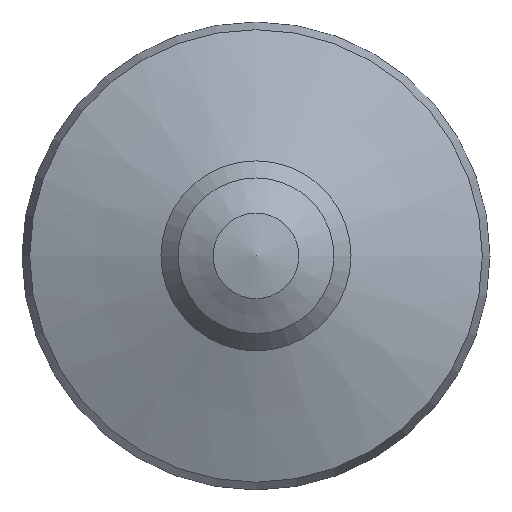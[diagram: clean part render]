
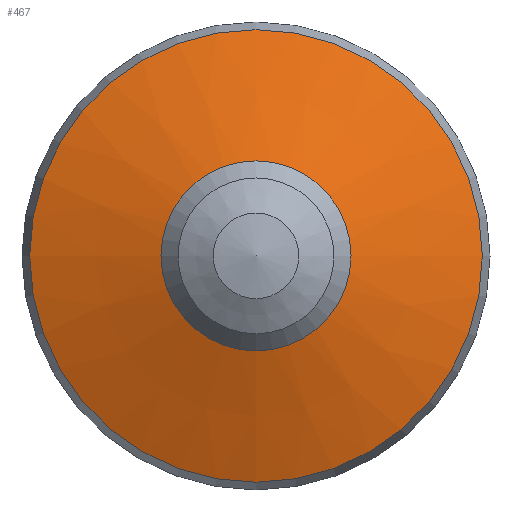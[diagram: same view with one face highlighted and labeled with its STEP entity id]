
A CAD part, top view. The second image highlights one B-rep face of the part: STEP entity #467.
In plain terms, the highlighted conical face has half-angle 70 degrees and reference radius 0.246 mm.
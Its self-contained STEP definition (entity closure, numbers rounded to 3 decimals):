
#467 = ADVANCED_FACE('',(#468),#481,.T.);
#468 = FACE_BOUND('',#469,.F.);
#469 = EDGE_LOOP('',(#470,#504,#527,#554));
#470 = ORIENTED_EDGE('',*,*,#471,.T.);
#471 = EDGE_CURVE('',#472,#472,#474,.T.);
#472 = VERTEX_POINT('',#473);
#473 = CARTESIAN_POINT('',(0.246,0.,0.33));
#474 = SURFACE_CURVE('',#475,(#480,#492),.PCURVE_S1.);
#475 = CIRCLE('',#476,0.246);
#476 = AXIS2_PLACEMENT_3D('',#477,#478,#479);
#477 = CARTESIAN_POINT('',(0.,0.,0.33));
#478 = DIRECTION('',(0.,0.,1.));
#479 = DIRECTION('',(1.,0.,-0.));
#480 = PCURVE('',#481,#486);
#481 = CONICAL_SURFACE('',#482,0.246,1.222);
#482 = AXIS2_PLACEMENT_3D('',#483,#484,#485);
#483 = CARTESIAN_POINT('',(0.,0.,0.33));
#484 = DIRECTION('',(-0.,-0.,-1.));
#485 = DIRECTION('',(1.,0.,0.));
#486 = DEFINITIONAL_REPRESENTATION('',(#487),#491);
#487 = LINE('',#488,#489);
#488 = CARTESIAN_POINT('',(-0.,0.));
#489 = VECTOR('',#490,1.);
#490 = DIRECTION('',(-1.,0.));
#491 = ( GEOMETRIC_REPRESENTATION_CONTEXT(2) 
PARAMETRIC_REPRESENTATION_CONTEXT() REPRESENTATION_CONTEXT('2D SPACE',''
  ) );
#492 = PCURVE('',#493,#498);
#493 = CYLINDRICAL_SURFACE('',#494,0.246);
#494 = AXIS2_PLACEMENT_3D('',#495,#496,#497);
#495 = CARTESIAN_POINT('',(0.,0.,0.305));
#496 = DIRECTION('',(0.,0.,1.));
#497 = DIRECTION('',(1.,0.,-0.));
#498 = DEFINITIONAL_REPRESENTATION('',(#499),#503);
#499 = LINE('',#500,#501);
#500 = CARTESIAN_POINT('',(0.,0.025));
#501 = VECTOR('',#502,1.);
#502 = DIRECTION('',(1.,0.));
#503 = ( GEOMETRIC_REPRESENTATION_CONTEXT(2) 
PARAMETRIC_REPRESENTATION_CONTEXT() REPRESENTATION_CONTEXT('2D SPACE',''
  ) );
#504 = ORIENTED_EDGE('',*,*,#505,.T.);
#505 = EDGE_CURVE('',#472,#506,#508,.T.);
#506 = VERTEX_POINT('',#507);
#507 = CARTESIAN_POINT('',(0.585,0.,0.207));
#508 = SEAM_CURVE('',#509,(#513,#520),.PCURVE_S1.);
#509 = LINE('',#510,#511);
#510 = CARTESIAN_POINT('',(0.246,0.,0.33));
#511 = VECTOR('',#512,1.);
#512 = DIRECTION('',(0.94,0.,-0.342));
#513 = PCURVE('',#481,#514);
#514 = DEFINITIONAL_REPRESENTATION('',(#515),#519);
#515 = LINE('',#516,#517);
#516 = CARTESIAN_POINT('',(-0.,0.));
#517 = VECTOR('',#518,1.);
#518 = DIRECTION('',(-0.,1.));
#519 = ( GEOMETRIC_REPRESENTATION_CONTEXT(2) 
PARAMETRIC_REPRESENTATION_CONTEXT() REPRESENTATION_CONTEXT('2D SPACE',''
  ) );
#520 = PCURVE('',#481,#521);
#521 = DEFINITIONAL_REPRESENTATION('',(#522),#526);
#522 = LINE('',#523,#524);
#523 = CARTESIAN_POINT('',(-6.283,0.));
#524 = VECTOR('',#525,1.);
#525 = DIRECTION('',(-0.,1.));
#526 = ( GEOMETRIC_REPRESENTATION_CONTEXT(2) 
PARAMETRIC_REPRESENTATION_CONTEXT() REPRESENTATION_CONTEXT('2D SPACE',''
  ) );
#527 = ORIENTED_EDGE('',*,*,#528,.F.);
#528 = EDGE_CURVE('',#506,#506,#529,.T.);
#529 = SURFACE_CURVE('',#530,(#535,#542),.PCURVE_S1.);
#530 = CIRCLE('',#531,0.585);
#531 = AXIS2_PLACEMENT_3D('',#532,#533,#534);
#532 = CARTESIAN_POINT('',(0.,0.,0.207));
#533 = DIRECTION('',(0.,0.,1.));
#534 = DIRECTION('',(1.,0.,-0.));
#535 = PCURVE('',#481,#536);
#536 = DEFINITIONAL_REPRESENTATION('',(#537),#541);
#537 = LINE('',#538,#539);
#538 = CARTESIAN_POINT('',(-0.,0.123));
#539 = VECTOR('',#540,1.);
#540 = DIRECTION('',(-1.,0.));
#541 = ( GEOMETRIC_REPRESENTATION_CONTEXT(2) 
PARAMETRIC_REPRESENTATION_CONTEXT() REPRESENTATION_CONTEXT('2D SPACE',''
  ) );
#542 = PCURVE('',#543,#548);
#543 = CONICAL_SURFACE('',#544,0.585,0.381);
#544 = AXIS2_PLACEMENT_3D('',#545,#546,#547);
#545 = CARTESIAN_POINT('',(0.,0.,0.207));
#546 = DIRECTION('',(-0.,-0.,-1.));
#547 = DIRECTION('',(1.,0.,0.));
#548 = DEFINITIONAL_REPRESENTATION('',(#549),#553);
#549 = LINE('',#550,#551);
#550 = CARTESIAN_POINT('',(-0.,0.));
#551 = VECTOR('',#552,1.);
#552 = DIRECTION('',(-1.,0.));
#553 = ( GEOMETRIC_REPRESENTATION_CONTEXT(2) 
PARAMETRIC_REPRESENTATION_CONTEXT() REPRESENTATION_CONTEXT('2D SPACE',''
  ) );
#554 = ORIENTED_EDGE('',*,*,#505,.F.);
